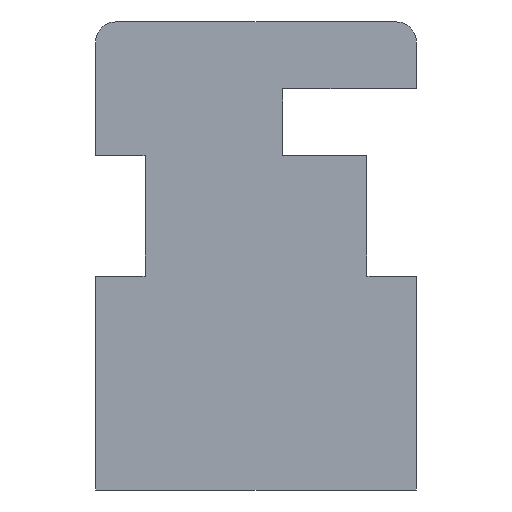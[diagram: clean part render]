
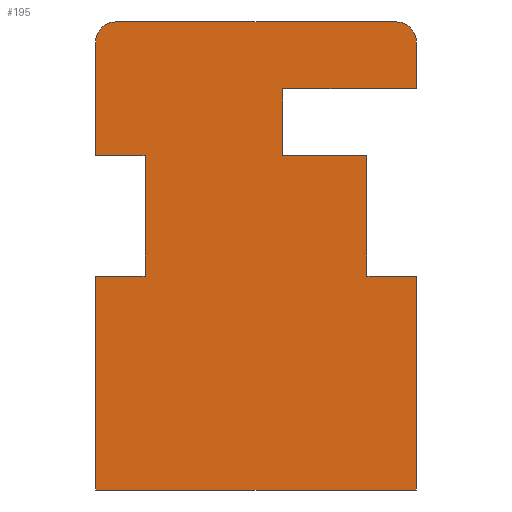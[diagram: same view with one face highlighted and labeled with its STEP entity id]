
A CAD part, left-side view. The second image highlights one B-rep face of the part: STEP entity #195.
In plain terms, the highlighted planar face has unit normal (-1, 0, 0).
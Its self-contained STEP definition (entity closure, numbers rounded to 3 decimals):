
#3 = VERTEX_POINT ( 'NONE', #248 ) ;
#9 = VERTEX_POINT ( 'NONE', #252 ) ;
#14 = VERTEX_POINT ( 'NONE', #240 ) ;
#18 = DIRECTION ( 'NONE',  ( 0., 0., 1. ) ) ;
#20 = VERTEX_POINT ( 'NONE', #153 ) ;
#24 = VERTEX_POINT ( 'NONE', #140 ) ;
#27 = EDGE_CURVE ( 'NONE', #9, #24, #59, .T. ) ;
#29 = CARTESIAN_POINT ( 'NONE',  ( 0., -6., 16.75 ) ) ;
#32 = DIRECTION ( 'NONE',  ( 0., 0., -1. ) ) ;
#33 = VERTEX_POINT ( 'NONE', #397 ) ;
#34 = EDGE_CURVE ( 'NONE', #20, #68, #290, .T. ) ;
#35 = EDGE_CURVE ( 'NONE', #33, #14, #508, .T. ) ;
#38 = EDGE_CURVE ( 'NONE', #68, #33, #396, .T. ) ;
#41 = EDGE_CURVE ( 'NONE', #14, #3, #405, .T. ) ;
#57 = VECTOR ( 'NONE', #18, 1000. ) ;
#58 = CARTESIAN_POINT ( 'NONE',  ( 0., 6., 12.5 ) ) ;
#59 = LINE ( 'NONE', #58, #57 ) ;
#61 = EDGE_CURVE ( 'NONE', #3, #62, #479, .T. ) ;
#62 = VERTEX_POINT ( 'NONE', #461 ) ;
#68 = VERTEX_POINT ( 'NONE', #346 ) ;
#80 = LINE ( 'NONE', #29, #141 ) ;
#83 = LINE ( 'NONE', #94, #135 ) ;
#94 = CARTESIAN_POINT ( 'NONE',  ( 0., -1., 12.5 ) ) ;
#96 = EDGE_CURVE ( 'NONE', #62, #9, #319, .T. ) ;
#100 = DIRECTION ( 'NONE',  ( 0., 0., -1. ) ) ;
#135 = VECTOR ( 'NONE', #32, 1000. ) ;
#140 = CARTESIAN_POINT ( 'NONE',  ( 0., 6., 16.75 ) ) ;
#141 = VECTOR ( 'NONE', #100, 1000. ) ;
#146 = CARTESIAN_POINT ( 'NONE',  ( 0., -1., 12.5 ) ) ;
#153 = CARTESIAN_POINT ( 'NONE',  ( 0., -6., 8. ) ) ;
#156 = VERTEX_POINT ( 'NONE', #298 ) ;
#158 = EDGE_CURVE ( 'NONE', #24, #156, #308, .T. ) ;
#163 = ORIENTED_EDGE ( 'NONE', *, *, #225, .F. ) ;
#164 = ORIENTED_EDGE ( 'NONE', *, *, #166, .F. ) ;
#166 = EDGE_CURVE ( 'NONE', #200, #20, #369, .T. ) ;
#175 = VERTEX_POINT ( 'NONE', #457 ) ;
#176 = VERTEX_POINT ( 'NONE', #451 ) ;
#190 = ORIENTED_EDGE ( 'NONE', *, *, #27, .F. ) ;
#191 = ORIENTED_EDGE ( 'NONE', *, *, #61, .F. ) ;
#192 = ORIENTED_EDGE ( 'NONE', *, *, #35, .F. ) ;
#193 = ORIENTED_EDGE ( 'NONE', *, *, #38, .F. ) ;
#195 = ADVANCED_FACE ( 'NONE', ( #432 ), #426, .F. ) ;
#196 = ORIENTED_EDGE ( 'NONE', *, *, #34, .F. ) ;
#200 = VERTEX_POINT ( 'NONE', #434 ) ;
#202 = ORIENTED_EDGE ( 'NONE', *, *, #269, .F. ) ;
#203 = ORIENTED_EDGE ( 'NONE', *, *, #211, .F. ) ;
#204 = ORIENTED_EDGE ( 'NONE', *, *, #276, .F. ) ;
#205 = ORIENTED_EDGE ( 'NONE', *, *, #228, .F. ) ;
#206 = ORIENTED_EDGE ( 'NONE', *, *, #158, .F. ) ;
#207 = ORIENTED_EDGE ( 'NONE', *, *, #229, .F. ) ;
#208 = ORIENTED_EDGE ( 'NONE', *, *, #96, .F. ) ;
#209 = ORIENTED_EDGE ( 'NONE', *, *, #215, .F. ) ;
#210 = ORIENTED_EDGE ( 'NONE', *, *, #41, .F. ) ;
#211 = EDGE_CURVE ( 'NONE', #226, #213, #362, .T. ) ;
#213 = VERTEX_POINT ( 'NONE', #363 ) ;
#215 = EDGE_CURVE ( 'NONE', #238, #176, #353, .T. ) ;
#225 = EDGE_CURVE ( 'NONE', #231, #175, #379, .T. ) ;
#226 = VERTEX_POINT ( 'NONE', #146 ) ;
#228 = EDGE_CURVE ( 'NONE', #175, #226, #83, .T. ) ;
#229 = EDGE_CURVE ( 'NONE', #176, #231, #80, .T. ) ;
#231 = VERTEX_POINT ( 'NONE', #525 ) ;
#238 = VERTEX_POINT ( 'NONE', #632 ) ;
#240 = CARTESIAN_POINT ( 'NONE',  ( 0., 6., 8. ) ) ;
#248 = CARTESIAN_POINT ( 'NONE',  ( 0., 4.15, 8. ) ) ;
#252 = CARTESIAN_POINT ( 'NONE',  ( 0., 6., 12.5 ) ) ;
#264 = EDGE_LOOP ( 'NONE', ( #196, #164, #202, #203, #205, #163, #207, #209, #204, #206, #190, #208, #191, #210, #192, #193 ) ) ;
#269 = EDGE_CURVE ( 'NONE', #213, #200, #578, .T. ) ;
#276 = EDGE_CURVE ( 'NONE', #156, #238, #558, .T. ) ;
#288 = DIRECTION ( 'NONE',  ( 0., 0., -1. ) ) ;
#289 = VECTOR ( 'NONE', #288, 1000. ) ;
#290 = LINE ( 'NONE', #350, #289 ) ;
#296 = CARTESIAN_POINT ( 'NONE',  ( 0., 5.25, 16.75 ) ) ;
#298 = CARTESIAN_POINT ( 'NONE',  ( 0., 5.25, 17.5 ) ) ;
#299 = DIRECTION ( 'NONE',  ( 0., -1., 0. ) ) ;
#300 = VECTOR ( 'NONE', #299, 1000. ) ;
#301 = CARTESIAN_POINT ( 'NONE',  ( 0., -4.15, 8. ) ) ;
#308 = CIRCLE ( 'NONE', #329, 0.75 ) ;
#319 = LINE ( 'NONE', #471, #470 ) ;
#329 = AXIS2_PLACEMENT_3D ( 'NONE', #296, #374, #373 ) ;
#345 = VECTOR ( 'NONE', #477, 1000. ) ;
#346 = CARTESIAN_POINT ( 'NONE',  ( 0., -6., 0. ) ) ;
#350 = CARTESIAN_POINT ( 'NONE',  ( 0., -6., 8. ) ) ;
#351 = CARTESIAN_POINT ( 'NONE',  ( 0., -6., 0. ) ) ;
#353 = CIRCLE ( 'NONE', #395, 0.75 ) ;
#354 = CARTESIAN_POINT ( 'NONE',  ( 0., -5.25, 16.75 ) ) ;
#360 = VECTOR ( 'NONE', #365, 1000. ) ;
#362 = LINE ( 'NONE', #366, #360 ) ;
#363 = CARTESIAN_POINT ( 'NONE',  ( 0., -4.15, 12.5 ) ) ;
#364 = DIRECTION ( 'NONE',  ( 0., 0., -1. ) ) ;
#365 = DIRECTION ( 'NONE',  ( 0., -1., 0. ) ) ;
#366 = CARTESIAN_POINT ( 'NONE',  ( 0., -4.15, 12.5 ) ) ;
#369 = LINE ( 'NONE', #301, #300 ) ;
#373 = DIRECTION ( 'NONE',  ( 0., 0., -1. ) ) ;
#374 = DIRECTION ( 'NONE',  ( 1., 0., 0. ) ) ;
#377 = DIRECTION ( 'NONE',  ( 0., 1., 0. ) ) ;
#378 = VECTOR ( 'NONE', #377, 1000. ) ;
#379 = LINE ( 'NONE', #503, #378 ) ;
#386 = CARTESIAN_POINT ( 'NONE',  ( 0., 6., 8. ) ) ;
#387 = DIRECTION ( 'NONE',  ( 0., 1., 0. ) ) ;
#394 = DIRECTION ( 'NONE',  ( 1., 0., 0. ) ) ;
#395 = AXIS2_PLACEMENT_3D ( 'NONE', #354, #502, #501 ) ;
#396 = LINE ( 'NONE', #351, #490 ) ;
#397 = CARTESIAN_POINT ( 'NONE',  ( 0., 6., 0. ) ) ;
#403 = DIRECTION ( 'NONE',  ( 0., -1., 0. ) ) ;
#404 = VECTOR ( 'NONE', #403, 1000. ) ;
#405 = LINE ( 'NONE', #386, #404 ) ;
#426 = PLANE ( 'NONE',  #430 ) ;
#430 = AXIS2_PLACEMENT_3D ( 'NONE', #444, #394, #364 ) ;
#432 = FACE_OUTER_BOUND ( 'NONE', #264, .T. ) ;
#434 = CARTESIAN_POINT ( 'NONE',  ( 0., -4.15, 8. ) ) ;
#444 = CARTESIAN_POINT ( 'NONE',  ( 0., 5.25, 16.75 ) ) ;
#451 = CARTESIAN_POINT ( 'NONE',  ( 0., -6., 16.75 ) ) ;
#457 = CARTESIAN_POINT ( 'NONE',  ( 0., -1., 15. ) ) ;
#461 = CARTESIAN_POINT ( 'NONE',  ( 0., 4.15, 12.5 ) ) ;
#469 = DIRECTION ( 'NONE',  ( 0., 1., 0. ) ) ;
#470 = VECTOR ( 'NONE', #469, 1000. ) ;
#471 = CARTESIAN_POINT ( 'NONE',  ( 0., 4.15, 12.5 ) ) ;
#477 = DIRECTION ( 'NONE',  ( 0., 0., 1. ) ) ;
#478 = CARTESIAN_POINT ( 'NONE',  ( 0., 4.15, 8. ) ) ;
#479 = LINE ( 'NONE', #478, #345 ) ;
#490 = VECTOR ( 'NONE', #387, 1000. ) ;
#501 = DIRECTION ( 'NONE',  ( 0., 0., -1. ) ) ;
#502 = DIRECTION ( 'NONE',  ( 1., 0., 0. ) ) ;
#503 = CARTESIAN_POINT ( 'NONE',  ( 0., -6., 15. ) ) ;
#505 = DIRECTION ( 'NONE',  ( 0., 0., 1. ) ) ;
#506 = VECTOR ( 'NONE', #505, 1000. ) ;
#507 = CARTESIAN_POINT ( 'NONE',  ( 0., 6., 0. ) ) ;
#508 = LINE ( 'NONE', #507, #506 ) ;
#525 = CARTESIAN_POINT ( 'NONE',  ( 0., -6., 15. ) ) ;
#557 = CARTESIAN_POINT ( 'NONE',  ( 0., 5.25, 17.5 ) ) ;
#558 = LINE ( 'NONE', #557, #562 ) ;
#562 = VECTOR ( 'NONE', #611, 1000. ) ;
#567 = DIRECTION ( 'NONE',  ( 0., 0., -1. ) ) ;
#568 = VECTOR ( 'NONE', #567, 1000. ) ;
#578 = LINE ( 'NONE', #620, #568 ) ;
#611 = DIRECTION ( 'NONE',  ( 0., -1., 0. ) ) ;
#620 = CARTESIAN_POINT ( 'NONE',  ( 0., -4.15, 12.5 ) ) ;
#632 = CARTESIAN_POINT ( 'NONE',  ( 0., -5.25, 17.5 ) ) ;
